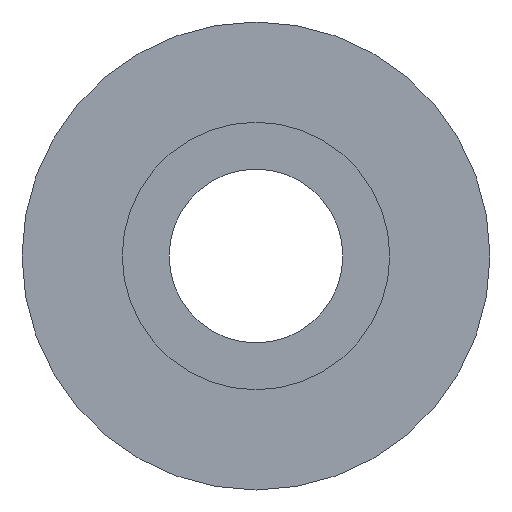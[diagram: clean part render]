
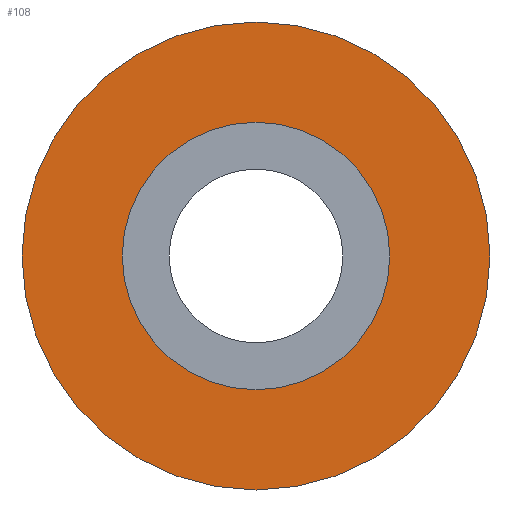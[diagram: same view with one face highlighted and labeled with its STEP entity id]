
A CAD part, left-side view. The second image highlights one B-rep face of the part: STEP entity #108.
In plain terms, the highlighted planar face has unit normal (-1, 0, 0).
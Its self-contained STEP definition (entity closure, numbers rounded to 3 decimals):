
#14=PLANE($,#127);
#24=FACE_BOUND($,#47,.T.);
#34=FACE_OUTER_BOUND($,#46,.T.);
#46=EDGE_LOOP($,(#91));
#47=EDGE_LOOP($,(#92));
#59=CIRCLE($,#125,0.508);
#61=CIRCLE($,#128,0.889);
#68=VERTEX_POINT($,#187);
#70=VERTEX_POINT($,#192);
#77=EDGE_CURVE($,#68,#68,#59,.T.);
#79=EDGE_CURVE($,#70,#70,#61,.T.);
#91=ORIENTED_EDGE($,*,*,#79,.F.);
#92=ORIENTED_EDGE($,*,*,#77,.T.);
#108=ADVANCED_FACE($,(#34,#24),#14,.T.);
#125=AXIS2_PLACEMENT_3D($,#188,#155,#156);
#127=AXIS2_PLACEMENT_3D($,#191,#159,#160);
#128=AXIS2_PLACEMENT_3D($,#193,#161,#162);
#155=DIRECTION('center_axis',(1.,0.,0.));
#156=DIRECTION('ref_axis',(0.,1.,0.));
#159=DIRECTION('center_axis',(-1.,0.,0.));
#160=DIRECTION('ref_axis',(0.,0.,1.));
#161=DIRECTION('center_axis',(1.,0.,0.));
#162=DIRECTION('ref_axis',(0.,1.,0.));
#187=CARTESIAN_POINT('',(1.295,0.508,0.));
#188=CARTESIAN_POINT('Origin',(1.295,0.,0.));
#191=CARTESIAN_POINT('Origin',(1.295,0.699,0.));
#192=CARTESIAN_POINT('',(1.295,0.889,0.));
#193=CARTESIAN_POINT('Origin',(1.295,0.,0.));
